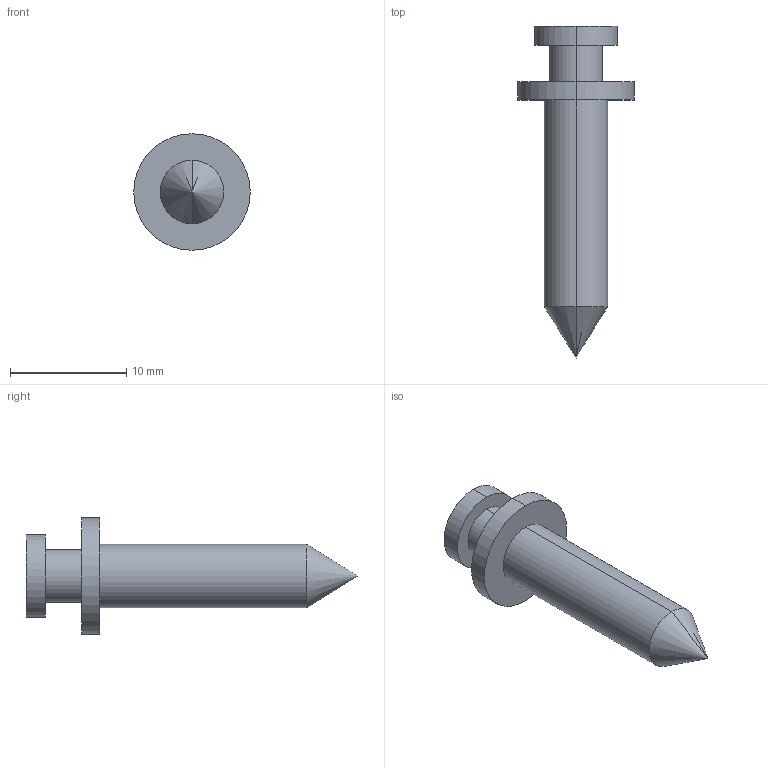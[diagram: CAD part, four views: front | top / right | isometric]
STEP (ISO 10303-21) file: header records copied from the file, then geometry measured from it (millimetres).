
FILE_DESCRIPTION (( 'STEP AP214' ), '1' );
FILE_NAME ('5070_V01_REF_PRT_SH_SCR.STEP', '2026-01-20T14:46:00', ( '' ), ( '' ), 'SwSTEP 2.0', 'SolidWorks 2025', '' );
FILE_SCHEMA (( 'AUTOMOTIVE_DESIGN' ));
Length unit declared in the file: inch
Products named in the file (1): 5070_V01_REF_PRT_SH_SCR
Bounding box: 10.03 x 28.6 x 10.03 mm (x, y, z)
Volume: 696.4 mm3; surface area: 664.3 mm2
Topology: 1 solids, 1 shells, 14 faces, 28 edges, 17 vertices
Faces by surface type: cylinder 8, plane 4, cone 2
Entity records: 385 total; most frequent: DIRECTION 72, CARTESIAN_POINT 58, ORIENTED_EDGE 52, AXIS2_PLACEMENT_3D 31, EDGE_CURVE 26, EDGE_LOOP 17, VERTEX_POINT 17, CIRCLE 16
